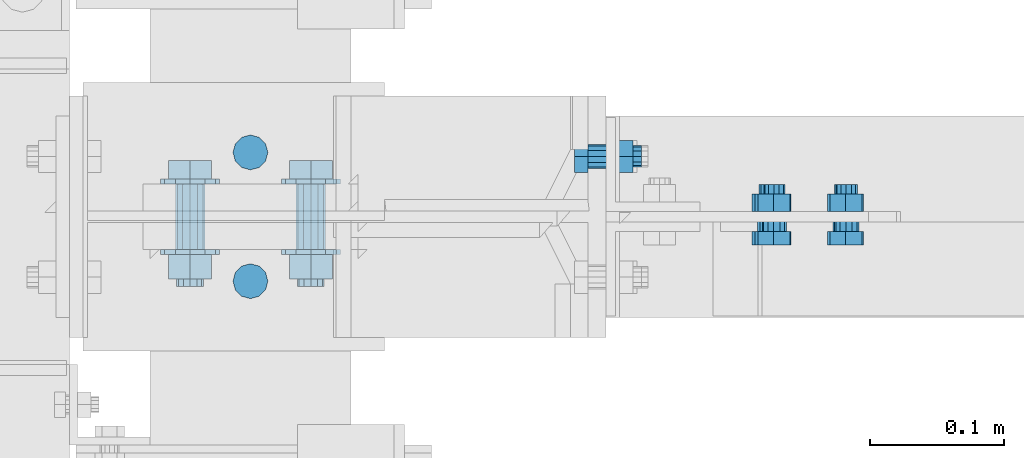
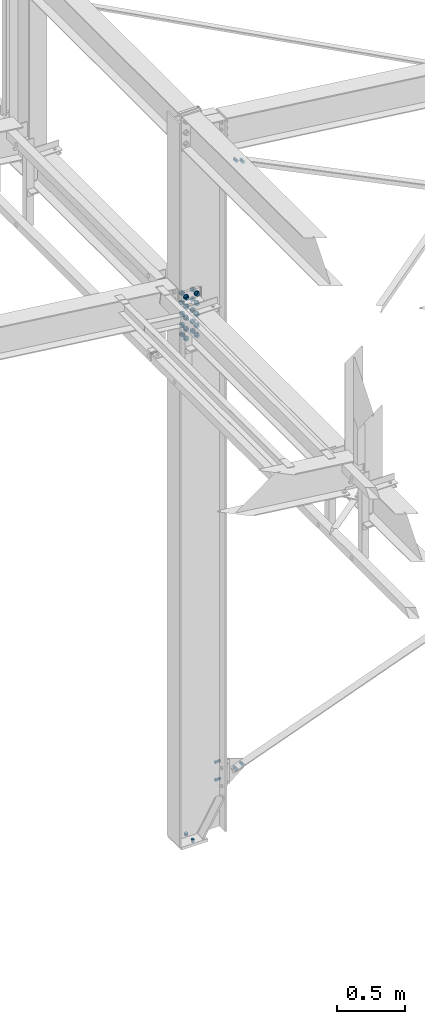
# One storey, part 117 of 3134: 5 mechanical fasteners, 5 elements without a shape of their own.
"""IFC2X3 building model written with IfcOpenShell, lengths in millimetres."""

from ifc_helpers import new_model, si_unit, frame, origin_with_axes, place, context, subcontext, project, spatial, faceted_brep, source, transform, mapped, material, type_object, element, aggregate, save


model = new_model("IFC2X3")

# Units and contexts
model_context = context("Model", 3, precision=1e-05, world=origin_with_axes())
body_context = subcontext(model_context, "Body", "Model", "MODEL_VIEW")
ifc_project = project(units=[si_unit("LENGTHUNIT", "METRE", prefix="MILLI"), si_unit("AREAUNIT", "SQUARE_METRE"), si_unit("VOLUMEUNIT", "CUBIC_METRE"), si_unit("MASSUNIT", "GRAM", prefix="KILO"), si_unit("TIMEUNIT", "SECOND"), si_unit("PLANEANGLEUNIT", "RADIAN"), si_unit("SOLIDANGLEUNIT", "STERADIAN"), si_unit("THERMODYNAMICTEMPERATUREUNIT", "DEGREE_CELSIUS"), si_unit("LUMINOUSINTENSITYUNIT", "LUMEN")], contexts=[model_context])

# Site, building, storey
site_placement = place(None, origin_with_axes())
site = spatial("IfcSite", under=ifc_project, at=site_placement, CompositionType="ELEMENT")
building_placement = place(site_placement, origin_with_axes())
building = spatial("IfcBuilding", under=site, at=building_placement, Name="Undefined", CompositionType="ELEMENT")
storey_placement = place(building_placement, origin_with_axes())
storey = spatial("IfcBuildingStorey", under=building, at=storey_placement, Name="Undefined", CompositionType="ELEMENT", Elevation=0.0)

# Assembly, mechanical fastener
assembly_1_placement = place(storey_placement, origin_with_axes())
assembly_1 = element("IfcElementAssembly", 1, at=assembly_1_placement, inside=storey, AssemblyPlace="NOTDEFINED", PredefinedType="RIGID_FRAME")
ifc_material_1 = material(Name="8.8")
mechanical_fastener_type = type_object("IfcMechanicalFastenerType", Name="Bolt assembly")
shared_shape_1 = source(origin_with_axes(), body_context, "Body", "Brep", [
    faceted_brep([(13.856406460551, -21.0000017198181, 0.0), (6.92820323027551, -21.0000017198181, 12.0), (-6.92820323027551, -21.0000017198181, 12.0), (-13.856406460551, -21.0000017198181, 1.69692038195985e-15), (-6.92820323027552, -21.0000017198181, -12.0), (6.9282032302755, -21.0000017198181, -12.0), (6.9282032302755, -11.0000017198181, -12.0), (-6.92820323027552, -11.0000017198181, -12.0), (-13.856406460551, -11.0000017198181, 1.69692038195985e-15), (-6.92820323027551, -11.0000017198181, 12.0), (6.92820323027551, -11.0000017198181, 12.0), (13.856406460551, -11.0000017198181, 0.0), (8.0, -11.0000017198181, 0.0), (6.92820323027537, -11.0000017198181, 4.00000000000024), (3.99999999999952, -11.0000017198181, 6.92820323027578), (-8.29068785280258e-13, -11.0000017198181, 8.0), (-4.00000000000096, -11.0000017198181, 6.92820323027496), (-6.9282032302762, -11.0000017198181, 3.99999999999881), (-8.0, -11.0000017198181, -1.65813757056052e-12), (-6.92820323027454, -11.0000017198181, -4.00000000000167), (-3.99999999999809, -11.0000017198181, -6.92820323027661), (2.47832457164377e-12, -11.0000017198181, -8.0), (4.00000000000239, -11.0000017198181, -6.92820323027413), (6.92820323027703, -11.0000017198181, -3.99999999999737), (6.92820323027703, 23.9999999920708, -3.99999999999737), (4.00000000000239, 23.9999999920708, -6.92820323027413), (2.47832457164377e-12, 23.9999999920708, -8.0), (-3.99999999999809, 23.9999999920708, -6.92820323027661), (-6.92820323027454, 23.9999999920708, -4.00000000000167), (-8.0, 23.9999999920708, -1.65813757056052e-12), (-6.9282032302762, 23.9999999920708, 3.99999999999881), (-4.00000000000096, 23.9999999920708, 6.92820323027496), (-8.29068785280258e-13, 23.9999999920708, 8.0), (3.99999999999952, 23.9999999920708, 6.92820323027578), (6.92820323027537, 23.9999999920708, 4.00000000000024), (8.0, 23.9999999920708, 0.0), (13.856406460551, 3.99999999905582, 0.0), (6.92820323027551, 3.99999999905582, 12.0), (-6.92820323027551, 3.99999999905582, 12.0), (-13.856406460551, 3.99999999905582, 1.69692038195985e-15), (-6.92820323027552, 3.99999999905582, -12.0), (6.9282032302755, 3.99999999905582, -12.0), (6.9282032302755, 16.9999999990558, -12.0), (-6.92820323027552, 16.9999999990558, -12.0), (-13.856406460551, 16.9999999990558, 1.69692038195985e-15), (-6.92820323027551, 16.9999999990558, 12.0), (6.92820323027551, 16.9999999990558, 12.0), (13.856406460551, 16.9999999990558, 0.0)], [[[0, 1, 2, 3, 4, 5]], [[6, 7, 8, 9, 10, 11]], [[0, 11, 10, 1]], [[1, 10, 9, 2]], [[2, 9, 8, 3]], [[3, 8, 7, 4]], [[4, 7, 6, 5]], [[5, 6, 11, 0]], [[12, 13, 14, 15, 16, 17, 18, 19, 20, 21, 22, 23]], [[24, 25, 26, 27, 28, 29, 30, 31, 32, 33, 34, 35]], [[12, 35, 34, 13]], [[13, 34, 33, 14]], [[14, 33, 32, 15]], [[15, 32, 31, 16]], [[16, 31, 30, 17]], [[17, 30, 29, 18]], [[18, 29, 28, 19]], [[19, 28, 27, 20]], [[20, 27, 26, 21]], [[21, 26, 25, 22]], [[22, 25, 24, 23]], [[23, 24, 35, 12]], [[36, 37, 38, 39, 40, 41]], [[42, 43, 44, 45, 46, 47]], [[36, 47, 46, 37]], [[37, 46, 45, 38]], [[38, 45, 44, 39]], [[39, 44, 43, 40]], [[40, 43, 42, 41]], [[41, 42, 47, 36]]]),
    faceted_brep([(9.0, -4.10000000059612, 0.0), (7.79422863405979, -4.10000000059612, 4.50000000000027), (4.49999999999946, -4.10000000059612, 7.79422863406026), (-9.3270238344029e-13, -4.10000000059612, 9.0), (-4.50000000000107, -4.10000000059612, 7.79422863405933), (-7.79422863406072, -4.10000000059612, 4.49999999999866), (-9.0, -4.10000000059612, -1.86540476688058e-12), (-7.79422863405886, -4.10000000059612, -4.50000000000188), (-4.49999999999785, -4.10000000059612, -7.79422863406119), (2.78811514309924e-12, -4.10000000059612, -9.0), (4.50000000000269, -4.10000000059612, -7.7942286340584), (7.79422863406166, -4.10000000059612, -4.49999999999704), (7.79422863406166, 4.00000375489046, -4.49999999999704), (4.50000000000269, 4.00000375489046, -7.7942286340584), (2.78811514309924e-12, 4.00000375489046, -9.0), (-4.49999999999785, 4.00000375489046, -7.79422863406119), (-7.79422863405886, 4.00000375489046, -4.50000000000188), (-9.0, 4.00000375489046, -1.86540476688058e-12), (-7.79422863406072, 4.00000375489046, 4.49999999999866), (-4.50000000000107, 4.00000375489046, 7.79422863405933), (-9.3270238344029e-13, 4.00000375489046, 9.0), (4.49999999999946, 4.00000375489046, 7.79422863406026), (7.79422863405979, 4.00000375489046, 4.50000000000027), (9.0, 4.00000375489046, 0.0), (9.0, -10.9000017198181, 0.0), (7.79422863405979, -10.9000017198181, 4.50000000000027), (4.49999999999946, -10.9000017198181, 7.79422863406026), (-9.3270238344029e-13, -10.9000017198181, 9.0), (-4.50000000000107, -10.9000017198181, 7.79422863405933), (-7.79422863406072, -10.9000017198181, 4.49999999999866), (-9.0, -10.9000017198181, -1.86540476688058e-12), (-7.79422863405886, -10.9000017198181, -4.50000000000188), (-4.49999999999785, -10.9000017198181, -7.79422863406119), (2.78811514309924e-12, -10.9000017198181, -9.0), (4.50000000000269, -10.9000017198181, -7.7942286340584), (7.79422863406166, -10.9000017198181, -4.49999999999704), (7.79422863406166, -3.9, -4.49999999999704), (4.50000000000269, -3.9, -7.7942286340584), (2.78811514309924e-12, -3.9, -9.0), (-4.49999999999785, -3.9, -7.79422863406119), (-7.79422863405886, -3.9, -4.50000000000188), (-9.0, -3.9, -1.86540476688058e-12), (-7.79422863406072, -3.9, 4.49999999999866), (-4.50000000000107, -3.9, 7.79422863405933), (-9.3270238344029e-13, -3.9, 9.0), (4.49999999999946, -3.9, 7.79422863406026), (7.79422863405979, -3.9, 4.50000000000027), (9.0, -3.9, 0.0)], [[[0, 1, 2, 3, 4, 5, 6, 7, 8, 9, 10, 11]], [[12, 13, 14, 15, 16, 17, 18, 19, 20, 21, 22, 23]], [[0, 23, 22, 1]], [[1, 22, 21, 2]], [[2, 21, 20, 3]], [[3, 20, 19, 4]], [[4, 19, 18, 5]], [[5, 18, 17, 6]], [[6, 17, 16, 7]], [[7, 16, 15, 8]], [[8, 15, 14, 9]], [[9, 14, 13, 10]], [[10, 13, 12, 11]], [[11, 12, 23, 0]], [[24, 25, 26, 27, 28, 29, 30, 31, 32, 33, 34, 35]], [[36, 37, 38, 39, 40, 41, 42, 43, 44, 45, 46, 47]], [[24, 47, 46, 25]], [[25, 46, 45, 26]], [[26, 45, 44, 27]], [[27, 44, 43, 28]], [[28, 43, 42, 29]], [[29, 42, 41, 30]], [[30, 41, 40, 31]], [[31, 40, 39, 32]], [[32, 39, 38, 33]], [[33, 38, 37, 34]], [[34, 37, 36, 35]], [[35, 36, 47, 24]]]),
])
mechanical_fastener_1_placement = place(assembly_1_placement, frame((44586.8867952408, 7650.0, -104.807745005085), z_axis=(-0.347632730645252, 0.0, 0.937630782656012), x_axis=(0.937630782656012, 0.0, 0.347632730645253)))
mechanical_fastener_1 = element("IfcMechanicalFastener", 2, at=mechanical_fastener_1_placement, type_object=mechanical_fastener_type, material=ifc_material_1, Name="Bolt assembly", NominalDiameter=16.0, NominalLength=35.0, context=body_context, shape_type="MappedRepresentation", body=[
    mapped(shared_shape_1, transform((0.0, 0.0, 0.0))),
    mapped(shared_shape_1, transform((59.9999999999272, 0.0, 5.40239852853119e-10))),
])
aggregate(assembly_1, [mechanical_fastener_1])

assembly_2_placement = place(storey_placement, origin_with_axes())
assembly_2 = element("IfcElementAssembly", 3, at=assembly_2_placement, inside=storey, AssemblyPlace="NOTDEFINED", PredefinedType="RIGID_FRAME")
mechanical_fastener_2_placement = place(assembly_2_placement, frame((44590.6543199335, 7650.0, 5327.63267581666), z_axis=(0.440953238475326, 0.0, 0.897530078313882), x_axis=(0.897530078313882, 0.0, -0.440953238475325)))
mechanical_fastener_2 = element("IfcMechanicalFastener", 4, at=mechanical_fastener_2_placement, type_object=mechanical_fastener_type, material=ifc_material_1, Name="Bolt assembly", NominalDiameter=16.0, NominalLength=35.0, context=body_context, shape_type="MappedRepresentation", body=[
    mapped(shared_shape_1, transform((0.0, 0.0, 0.0))),
    mapped(shared_shape_1, transform((59.9999999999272, 0.0, 5.40239852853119e-10))),
])
aggregate(assembly_2, [mechanical_fastener_2])

assembly_3_placement = place(storey_placement, origin_with_axes())
assembly_3 = element("IfcElementAssembly", 5, at=assembly_3_placement, inside=storey, AssemblyPlace="NOTDEFINED", PredefinedType="RIGID_FRAME")
shared_shape_2 = source(origin_with_axes(), body_context, "Body", "Brep", [
    faceted_brep([(13.856406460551, -23.4899999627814, 0.0), (6.92820323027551, -23.4899999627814, 12.0), (-6.92820323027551, -23.4899999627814, 12.0), (-13.856406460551, -23.4899999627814, 1.69692038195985e-15), (-6.92820323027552, -23.4899999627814, -12.0), (6.9282032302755, -23.4899999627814, -12.0), (6.9282032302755, -13.4899999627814, -12.0), (-6.92820323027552, -13.4899999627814, -12.0), (-13.856406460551, -13.4899999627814, 1.69692038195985e-15), (-6.92820323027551, -13.4899999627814, 12.0), (6.92820323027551, -13.4899999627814, 12.0), (13.856406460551, -13.4899999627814, 0.0), (8.0, -13.4899999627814, 0.0), (6.92820323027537, -13.4899999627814, 4.00000000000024), (3.99999999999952, -13.4899999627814, 6.92820323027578), (-8.29068785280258e-13, -13.4899999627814, 8.0), (-4.00000000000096, -13.4899999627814, 6.92820323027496), (-6.9282032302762, -13.4899999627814, 3.99999999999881), (-8.0, -13.4899999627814, -1.65813757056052e-12), (-6.92820323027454, -13.4899999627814, -4.00000000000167), (-3.99999999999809, -13.4899999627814, -6.92820323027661), (2.47832457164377e-12, -13.4899999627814, -8.0), (4.00000000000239, -13.4899999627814, -6.92820323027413), (6.92820323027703, -13.4899999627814, -3.99999999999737), (6.92820323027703, 26.5100000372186, -3.99999999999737), (4.00000000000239, 26.5100000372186, -6.92820323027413), (2.47832457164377e-12, 26.5100000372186, -8.0), (-3.99999999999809, 26.5100000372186, -6.92820323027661), (-6.92820323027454, 26.5100000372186, -4.00000000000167), (-8.0, 26.5100000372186, -1.65813757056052e-12), (-6.9282032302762, 26.5100000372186, 3.99999999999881), (-4.00000000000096, 26.5100000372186, 6.92820323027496), (-8.29068785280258e-13, 26.5100000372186, 8.0), (3.99999999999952, 26.5100000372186, 6.92820323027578), (6.92820323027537, 26.5100000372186, 4.00000000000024), (8.0, 26.5100000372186, 0.0), (13.856406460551, 7.00624984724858, 0.0), (6.92820323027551, 7.00624984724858, 12.0), (-6.92820323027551, 7.00624984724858, 12.0), (-13.856406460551, 7.00624984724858, 1.69692038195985e-15), (-6.92820323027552, 7.00624984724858, -12.0), (6.9282032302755, 7.00624984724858, -12.0), (6.9282032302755, 20.0062498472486, -12.0), (-6.92820323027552, 20.0062498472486, -12.0), (-13.856406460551, 20.0062498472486, 1.69692038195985e-15), (-6.92820323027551, 20.0062498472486, 12.0), (6.92820323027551, 20.0062498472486, 12.0), (13.856406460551, 20.0062498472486, 0.0)], [[[0, 1, 2, 3, 4, 5]], [[6, 7, 8, 9, 10, 11]], [[0, 11, 10, 1]], [[1, 10, 9, 2]], [[2, 9, 8, 3]], [[3, 8, 7, 4]], [[4, 7, 6, 5]], [[5, 6, 11, 0]], [[12, 13, 14, 15, 16, 17, 18, 19, 20, 21, 22, 23]], [[24, 25, 26, 27, 28, 29, 30, 31, 32, 33, 34, 35]], [[12, 35, 34, 13]], [[13, 34, 33, 14]], [[14, 33, 32, 15]], [[15, 32, 31, 16]], [[16, 31, 30, 17]], [[17, 30, 29, 18]], [[18, 29, 28, 19]], [[19, 28, 27, 20]], [[20, 27, 26, 21]], [[21, 26, 25, 22]], [[22, 25, 24, 23]], [[23, 24, 35, 12]], [[36, 37, 38, 39, 40, 41]], [[42, 43, 44, 45, 46, 47]], [[36, 47, 46, 37]], [[37, 46, 45, 38]], [[38, 45, 44, 39]], [[39, 44, 43, 40]], [[40, 43, 42, 41]], [[41, 42, 47, 36]]]),
    faceted_brep([(9.0, -13.3899999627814, 0.0), (7.79422863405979, -13.3899999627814, 4.50000000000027), (4.49999999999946, -13.3899999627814, 7.79422863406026), (-9.3270238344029e-13, -13.3899999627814, 9.0), (-4.50000000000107, -13.3899999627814, 7.79422863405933), (-7.79422863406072, -13.3899999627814, 4.49999999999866), (-9.0, -13.3899999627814, -1.86540476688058e-12), (-7.79422863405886, -13.3899999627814, -4.50000000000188), (-4.49999999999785, -13.3899999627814, -7.79422863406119), (2.78811514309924e-12, -13.3899999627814, -9.0), (4.50000000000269, -13.3899999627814, -7.7942286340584), (7.79422863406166, -13.3899999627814, -4.49999999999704), (7.79422863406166, 0.11000003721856, -4.49999999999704), (4.50000000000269, 0.11000003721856, -7.7942286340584), (2.78811514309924e-12, 0.11000003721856, -9.0), (-4.49999999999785, 0.11000003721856, -7.79422863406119), (-7.79422863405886, 0.11000003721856, -4.50000000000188), (-9.0, 0.11000003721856, -1.86540476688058e-12), (-7.79422863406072, 0.11000003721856, 4.49999999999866), (-4.50000000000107, 0.11000003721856, 7.79422863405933), (-9.3270238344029e-13, 0.11000003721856, 9.0), (4.49999999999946, 0.11000003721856, 7.79422863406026), (7.79422863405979, 0.11000003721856, 4.50000000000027), (9.0, 0.11000003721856, 0.0), (9.0, -0.0937501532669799, 0.0), (7.79422863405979, -0.0937501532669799, 4.50000000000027), (4.49999999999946, -0.0937501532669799, 7.79422863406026), (-9.3270238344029e-13, -0.0937501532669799, 9.0), (-4.50000000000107, -0.0937501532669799, 7.79422863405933), (-7.79422863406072, -0.0937501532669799, 4.49999999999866), (-9.0, -0.0937501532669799, -1.86540476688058e-12), (-7.79422863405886, -0.0937501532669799, -4.50000000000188), (-4.49999999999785, -0.0937501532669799, -7.79422863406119), (2.78811514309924e-12, -0.0937501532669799, -9.0), (4.50000000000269, -0.0937501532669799, -7.7942286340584), (7.79422863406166, -0.0937501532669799, -4.49999999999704), (7.79422863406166, 7.00624984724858, -4.49999999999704), (4.50000000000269, 7.00624984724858, -7.7942286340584), (2.78811514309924e-12, 7.00624984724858, -9.0), (-4.49999999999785, 7.00624984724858, -7.79422863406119), (-7.79422863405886, 7.00624984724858, -4.50000000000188), (-9.0, 7.00624984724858, -1.86540476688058e-12), (-7.79422863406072, 7.00624984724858, 4.49999999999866), (-4.50000000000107, 7.00624984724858, 7.79422863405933), (-9.3270238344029e-13, 7.00624984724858, 9.0), (4.49999999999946, 7.00624984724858, 7.79422863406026), (7.79422863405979, 7.00624984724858, 4.50000000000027), (9.0, 7.00624984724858, 0.0)], [[[0, 1, 2, 3, 4, 5, 6, 7, 8, 9, 10, 11]], [[12, 13, 14, 15, 16, 17, 18, 19, 20, 21, 22, 23]], [[0, 23, 22, 1]], [[1, 22, 21, 2]], [[2, 21, 20, 3]], [[3, 20, 19, 4]], [[4, 19, 18, 5]], [[5, 18, 17, 6]], [[6, 17, 16, 7]], [[7, 16, 15, 8]], [[8, 15, 14, 9]], [[9, 14, 13, 10]], [[10, 13, 12, 11]], [[11, 12, 23, 0]], [[24, 25, 26, 27, 28, 29, 30, 31, 32, 33, 34, 35]], [[36, 37, 38, 39, 40, 41, 42, 43, 44, 45, 46, 47]], [[24, 47, 46, 25]], [[25, 46, 45, 26]], [[26, 45, 44, 27]], [[27, 44, 43, 28]], [[28, 43, 42, 29]], [[29, 42, 41, 30]], [[30, 41, 40, 31]], [[31, 40, 39, 32]], [[32, 39, 38, 33]], [[33, 38, 37, 34]], [[34, 37, 36, 35]], [[35, 36, 47, 24]]]),
])
mechanical_fastener_3_placement = place(assembly_3_placement, frame((44464.9899999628, 7650.0, -30.0040931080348), z_axis=(0.0, -1.0, 0.0), x_axis=(0.0, 0.0, -1.0)))
mechanical_fastener_3 = element("IfcMechanicalFastener", 6, at=mechanical_fastener_3_placement, type_object=mechanical_fastener_type, material=ifc_material_1, Name="Bolt assembly", NominalDiameter=16.0, NominalLength=40.0, context=body_context, shape_type="MappedRepresentation", body=[
    mapped(shared_shape_2, transform((0.0, 0.0, -45.0))),
    mapped(shared_shape_2, transform((160.0, 0.0, -45.0))),
])
aggregate(assembly_3, [mechanical_fastener_3])

assembly_4_placement = place(storey_placement, origin_with_axes())
assembly_4 = element("IfcElementAssembly", 7, at=assembly_4_placement, inside=storey, Name="300", AssemblyPlace="NOTDEFINED", PredefinedType="RIGID_FRAME")
ifc_material_2 = material(Name="HR10.9")
shared_shape_3 = source(origin_with_axes(), body_context, "Body", "Brep", [
    faceted_brep([(18.475208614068, -17.599999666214, 0.0), (9.23760430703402, -17.599999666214, 16.0), (-9.23760430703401, -17.599999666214, 16.0), (-18.475208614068, -17.599999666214, 2.2625605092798e-15), (-9.23760430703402, -17.599999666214, -16.0), (9.237604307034, -17.599999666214, -16.0), (9.237604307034, -3.70000004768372, -16.0), (-9.23760430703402, -3.70000004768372, -16.0), (-18.475208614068, -3.70000004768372, 2.2625605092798e-15), (-9.23760430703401, -3.70000004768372, 16.0), (9.23760430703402, -3.70000004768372, 16.0), (18.475208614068, -3.70000004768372, 0.0), (10.0, -3.70000004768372, 0.0), (8.66025403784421, -3.70000004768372, 5.0000000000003), (4.9999999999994, -3.70000004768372, 8.66025403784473), (-1.03633598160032e-12, -3.70000004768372, 10.0), (-5.00000000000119, -3.70000004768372, 8.6602540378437), (-8.66025403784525, -3.70000004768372, 4.99999999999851), (-10.0, -3.70000004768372, -2.07267196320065e-12), (-8.66025403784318, -3.70000004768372, -5.00000000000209), (-4.99999999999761, -3.70000004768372, -8.66025403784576), (3.09790571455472e-12, -3.70000004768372, -10.0), (5.00000000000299, -3.70000004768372, -8.66025403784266), (8.66025403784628, -3.70000004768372, -4.99999999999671), (8.66025403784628, 76.2999999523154, -4.99999999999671), (5.00000000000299, 76.2999999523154, -8.66025403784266), (3.09790571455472e-12, 76.2999999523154, -10.0), (-4.99999999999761, 76.2999999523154, -8.66025403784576), (-8.66025403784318, 76.2999999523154, -5.00000000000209), (-10.0, 76.2999999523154, -2.07267196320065e-12), (-8.66025403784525, 76.2999999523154, 4.99999999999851), (-5.00000000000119, 76.2999999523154, 8.6602540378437), (-1.03633598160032e-12, 76.2999999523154, 10.0), (4.9999999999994, 76.2999999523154, 8.66025403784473), (8.66025403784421, 76.2999999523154, 5.0000000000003), (10.0, 76.2999999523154, 0.0), (22.0, -3.70000004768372, 0.0), (19.0525588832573, -3.70000004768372, 11.0000000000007), (10.9999999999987, -3.70000004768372, 19.0525588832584), (-2.27993915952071e-12, -3.70000004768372, 22.0), (-11.0000000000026, -3.70000004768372, 19.0525588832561), (-19.0525588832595, -3.70000004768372, 10.9999999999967), (-22.0, -3.70000004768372, -4.55987831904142e-12), (-19.052558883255, -3.70000004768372, -11.0000000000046), (-10.9999999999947, -3.70000004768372, -19.0525588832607), (6.81539257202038e-12, -3.70000004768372, -22.0), (11.0000000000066, -3.70000004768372, -19.0525588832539), (19.0525588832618, -3.70000004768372, -10.9999999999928), (19.0525588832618, 0.0, -10.9999999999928), (11.0000000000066, 0.0, -19.0525588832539), (6.81539257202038e-12, 0.0, -22.0), (-10.9999999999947, 0.0, -19.0525588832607), (-19.052558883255, 0.0, -11.0000000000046), (-22.0, 0.0, -4.55987831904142e-12), (-19.0525588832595, 0.0, 10.9999999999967), (-11.0000000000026, 0.0, 19.0525588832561), (-2.27993915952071e-12, 0.0, 22.0), (10.9999999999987, 0.0, 19.0525588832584), (19.0525588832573, 0.0, 11.0000000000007), (22.0, 0.0, 0.0), (22.0, 48.5999999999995, 0.0), (19.0525588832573, 48.5999999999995, 11.0000000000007), (10.9999999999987, 48.5999999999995, 19.0525588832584), (-2.27993915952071e-12, 48.5999999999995, 22.0), (-11.0000000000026, 48.5999999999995, 19.0525588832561), (-19.0525588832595, 48.5999999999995, 10.9999999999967), (-22.0, 48.5999999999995, -4.55987831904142e-12), (-19.052558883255, 48.5999999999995, -11.0000000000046), (-10.9999999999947, 48.5999999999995, -19.0525588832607), (6.81539257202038e-12, 48.5999999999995, -22.0), (11.0000000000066, 48.5999999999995, -19.0525588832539), (19.0525588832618, 48.5999999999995, -10.9999999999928), (19.0525588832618, 52.3000000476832, -10.9999999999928), (11.0000000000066, 52.3000000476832, -19.0525588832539), (6.81539257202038e-12, 52.3000000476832, -22.0), (-10.9999999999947, 52.3000000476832, -19.0525588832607), (-19.052558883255, 52.3000000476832, -11.0000000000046), (-22.0, 52.3000000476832, -4.55987831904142e-12), (-19.0525588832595, 52.3000000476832, 10.9999999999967), (-11.0000000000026, 52.3000000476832, 19.0525588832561), (-2.27993915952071e-12, 52.3000000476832, 22.0), (10.9999999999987, 52.3000000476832, 19.0525588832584), (19.0525588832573, 52.3000000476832, 11.0000000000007), (22.0, 52.3000000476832, 0.0), (18.475208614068, 52.3000000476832, 0.0), (9.23760430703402, 52.3000000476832, 16.0), (-9.23760430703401, 52.3000000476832, 16.0), (-18.475208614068, 52.3000000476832, 2.2625605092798e-15), (-9.23760430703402, 52.3000000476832, -16.0), (9.237604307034, 52.3000000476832, -16.0), (9.237604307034, 70.8499992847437, -16.0), (-9.23760430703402, 70.8499992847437, -16.0), (-18.475208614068, 70.8499992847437, 2.2625605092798e-15), (-9.23760430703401, 70.8499992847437, 16.0), (9.23760430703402, 70.8499992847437, 16.0), (18.475208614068, 70.8499992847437, 0.0)], [[[0, 1, 2, 3, 4, 5]], [[6, 7, 8, 9, 10, 11]], [[0, 11, 10, 1]], [[1, 10, 9, 2]], [[2, 9, 8, 3]], [[3, 8, 7, 4]], [[4, 7, 6, 5]], [[5, 6, 11, 0]], [[12, 13, 14, 15, 16, 17, 18, 19, 20, 21, 22, 23]], [[24, 25, 26, 27, 28, 29, 30, 31, 32, 33, 34, 35]], [[12, 35, 34, 13]], [[13, 34, 33, 14]], [[14, 33, 32, 15]], [[15, 32, 31, 16]], [[16, 31, 30, 17]], [[17, 30, 29, 18]], [[18, 29, 28, 19]], [[19, 28, 27, 20]], [[20, 27, 26, 21]], [[21, 26, 25, 22]], [[22, 25, 24, 23]], [[23, 24, 35, 12]], [[36, 37, 38, 39, 40, 41, 42, 43, 44, 45, 46, 47]], [[48, 49, 50, 51, 52, 53, 54, 55, 56, 57, 58, 59]], [[36, 59, 58, 37]], [[37, 58, 57, 38]], [[38, 57, 56, 39]], [[39, 56, 55, 40]], [[40, 55, 54, 41]], [[41, 54, 53, 42]], [[42, 53, 52, 43]], [[43, 52, 51, 44]], [[44, 51, 50, 45]], [[45, 50, 49, 46]], [[46, 49, 48, 47]], [[47, 48, 59, 36]], [[60, 61, 62, 63, 64, 65, 66, 67, 68, 69, 70, 71]], [[72, 73, 74, 75, 76, 77, 78, 79, 80, 81, 82, 83]], [[60, 83, 82, 61]], [[61, 82, 81, 62]], [[62, 81, 80, 63]], [[63, 80, 79, 64]], [[64, 79, 78, 65]], [[65, 78, 77, 66]], [[66, 77, 76, 67]], [[67, 76, 75, 68]], [[68, 75, 74, 69]], [[69, 74, 73, 70]], [[70, 73, 72, 71]], [[71, 72, 83, 60]], [[84, 85, 86, 87, 88, 89]], [[90, 91, 92, 93, 94, 95]], [[84, 95, 94, 85]], [[85, 94, 93, 86]], [[86, 93, 92, 87]], [[87, 92, 91, 88]], [[88, 91, 90, 89]], [[89, 90, 95, 84]]]),
    faceted_brep([(11.0, 20.0, 0.0), (9.52627944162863, 20.0, 5.50000000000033), (5.49999999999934, 20.0, 9.5262794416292), (-1.13996957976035e-12, 20.0, 11.0), (-5.50000000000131, 20.0, 9.52627944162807), (-9.52627944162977, 20.0, 5.49999999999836), (-11.0, 20.0, -2.27993915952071e-12), (-9.5262794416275, 20.0, -5.5000000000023), (-5.49999999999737, 20.0, -9.52627944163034), (3.40769628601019e-12, 20.0, -11.0), (5.50000000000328, 20.0, -9.52627944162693), (9.52627944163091, 20.0, -5.49999999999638), (9.52627944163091, 28.6000001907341, -5.49999999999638), (5.50000000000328, 28.6000001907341, -9.52627944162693), (3.40769628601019e-12, 28.6000001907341, -11.0), (-5.49999999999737, 28.6000001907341, -9.52627944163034), (-9.5262794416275, 28.6000001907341, -5.5000000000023), (-11.0, 28.6000001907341, -2.27993915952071e-12), (-9.52627944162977, 28.6000001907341, 5.49999999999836), (-5.50000000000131, 28.6000001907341, 9.52627944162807), (-1.13996957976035e-12, 28.6000001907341, 11.0), (5.49999999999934, 28.6000001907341, 9.5262794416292), (9.52627944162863, 28.6000001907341, 5.50000000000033), (11.0, 28.6000001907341, 0.0), (11.0, 0.0999999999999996, 0.0), (9.52627944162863, 0.0999999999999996, 5.50000000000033), (5.49999999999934, 0.0999999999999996, 9.5262794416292), (-1.13996957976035e-12, 0.0999999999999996, 11.0), (-5.50000000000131, 0.0999999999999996, 9.52627944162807), (-9.52627944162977, 0.0999999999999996, 5.49999999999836), (-11.0, 0.0999999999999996, -2.27993915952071e-12), (-9.5262794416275, 0.0999999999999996, -5.5000000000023), (-5.49999999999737, 0.0999999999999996, -9.52627944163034), (3.40769628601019e-12, 0.0999999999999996, -11.0), (5.50000000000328, 0.0999999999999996, -9.52627944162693), (9.52627944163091, 0.0999999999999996, -5.49999999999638), (9.52627944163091, 20.1, -5.49999999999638), (5.50000000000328, 20.1, -9.52627944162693), (3.40769628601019e-12, 20.1, -11.0), (-5.49999999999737, 20.1, -9.52627944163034), (-9.5262794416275, 20.1, -5.5000000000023), (-11.0, 20.1, -2.27993915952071e-12), (-9.52627944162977, 20.1, 5.49999999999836), (-5.50000000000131, 20.1, 9.52627944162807), (-1.13996957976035e-12, 20.1, 11.0), (5.49999999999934, 20.1, 9.5262794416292), (9.52627944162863, 20.1, 5.50000000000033), (11.0, 20.1, 0.0), (11.0, 28.4999999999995, 0.0), (9.52627944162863, 28.4999999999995, 5.50000000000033), (5.49999999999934, 28.4999999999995, 9.5262794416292), (-1.13996957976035e-12, 28.4999999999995, 11.0), (-5.50000000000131, 28.4999999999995, 9.52627944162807), (-9.52627944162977, 28.4999999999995, 5.49999999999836), (-11.0, 28.4999999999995, -2.27993915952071e-12), (-9.5262794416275, 28.4999999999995, -5.5000000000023), (-5.49999999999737, 28.4999999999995, -9.52627944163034), (3.40769628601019e-12, 28.4999999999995, -11.0), (5.50000000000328, 28.4999999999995, -9.52627944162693), (9.52627944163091, 28.4999999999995, -5.49999999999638), (9.52627944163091, 48.5999999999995, -5.49999999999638), (5.50000000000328, 48.5999999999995, -9.52627944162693), (3.40769628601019e-12, 48.5999999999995, -11.0), (-5.49999999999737, 48.5999999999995, -9.52627944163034), (-9.5262794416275, 48.5999999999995, -5.5000000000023), (-11.0, 48.5999999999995, -2.27993915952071e-12), (-9.52627944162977, 48.5999999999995, 5.49999999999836), (-5.50000000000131, 48.5999999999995, 9.52627944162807), (-1.13996957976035e-12, 48.5999999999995, 11.0), (5.49999999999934, 48.5999999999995, 9.5262794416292), (9.52627944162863, 48.5999999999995, 5.50000000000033), (11.0, 48.5999999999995, 0.0)], [[[0, 1, 2, 3, 4, 5, 6, 7, 8, 9, 10, 11]], [[12, 13, 14, 15, 16, 17, 18, 19, 20, 21, 22, 23]], [[0, 23, 22, 1]], [[1, 22, 21, 2]], [[2, 21, 20, 3]], [[3, 20, 19, 4]], [[4, 19, 18, 5]], [[5, 18, 17, 6]], [[6, 17, 16, 7]], [[7, 16, 15, 8]], [[8, 15, 14, 9]], [[9, 14, 13, 10]], [[10, 13, 12, 11]], [[11, 12, 23, 0]], [[24, 25, 26, 27, 28, 29, 30, 31, 32, 33, 34, 35]], [[36, 37, 38, 39, 40, 41, 42, 43, 44, 45, 46, 47]], [[24, 47, 46, 25]], [[25, 46, 45, 26]], [[26, 45, 44, 27]], [[27, 44, 43, 28]], [[28, 43, 42, 29]], [[29, 42, 41, 30]], [[30, 41, 40, 31]], [[31, 40, 39, 32]], [[32, 39, 38, 33]], [[33, 38, 37, 34]], [[34, 37, 36, 35]], [[35, 36, 47, 24]], [[48, 49, 50, 51, 52, 53, 54, 55, 56, 57, 58, 59]], [[60, 61, 62, 63, 64, 65, 66, 67, 68, 69, 70, 71]], [[48, 71, 70, 49]], [[49, 70, 69, 50]], [[50, 69, 68, 51]], [[51, 68, 67, 52]], [[52, 67, 66, 53]], [[53, 66, 65, 54]], [[54, 65, 64, 55]], [[55, 64, 63, 56]], [[56, 63, 62, 57]], [[57, 62, 61, 58]], [[58, 61, 60, 59]], [[59, 60, 71, 48]]]),
])
mechanical_fastener_4_placement = place(assembly_4_placement, frame((44200.0, 7674.3, 4273.5), z_axis=(-1.0, 0.0, 0.0), x_axis=(0.0, 0.0, -1.0)))
mechanical_fastener_4 = element("IfcMechanicalFastener", 8, at=mechanical_fastener_4_placement, type_object=mechanical_fastener_type, material=ifc_material_2, Name="Bolt assembly", NominalDiameter=20.0, NominalLength=80.0, context=body_context, shape_type="MappedRepresentation", body=[
    mapped(shared_shape_3, transform((0.0, 0.0, -45.0))),
    mapped(shared_shape_3, transform((85.0, 0.0, -45.0))),
    mapped(shared_shape_3, transform((185.0, 0.0, -45.0))),
    mapped(shared_shape_3, transform((285.0, 0.0, -45.0))),
    mapped(shared_shape_3, transform((370.0, 0.0, -45.0))),
    mapped(shared_shape_3, transform((0.0, 0.0, 45.0))),
    mapped(shared_shape_3, transform((85.0, 0.0, 45.0))),
    mapped(shared_shape_3, transform((185.0, 0.0, 45.0))),
    mapped(shared_shape_3, transform((285.0, 0.0, 45.0))),
    mapped(shared_shape_3, transform((370.0, 0.0, 45.0))),
])
aggregate(assembly_4, [mechanical_fastener_4])

assembly_5_placement = place(storey_placement, origin_with_axes())
assembly_5 = element("IfcElementAssembly", 9, at=assembly_5_placement, inside=storey, Name="IPE400", AssemblyPlace="NOTDEFINED", PredefinedType="RIGID_FRAME")
shared_shape_4 = source(origin_with_axes(), body_context, "Body", "Brep", [
    faceted_brep([(13.0, -25.000000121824, 0.0), (11.2583302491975, -25.000000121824, 6.50000000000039), (6.49999999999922, -25.000000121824, 11.2583302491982), (-1.34723677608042e-12, -25.000000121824, 13.0), (-6.50000000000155, -25.000000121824, 11.2583302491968), (-11.2583302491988, -25.000000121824, 6.49999999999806), (-13.0, -25.000000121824, -2.69447355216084e-12), (-11.2583302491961, -25.000000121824, -6.50000000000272), (-6.4999999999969, -25.000000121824, -11.2583302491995), (4.02727742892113e-12, -25.000000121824, -13.0), (6.50000000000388, -25.000000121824, -11.2583302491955), (11.2583302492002, -25.000000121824, -6.49999999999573), (11.2583302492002, 0.100000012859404, -6.49999999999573), (6.50000000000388, 0.100000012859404, -11.2583302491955), (4.02727742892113e-12, 0.100000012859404, -13.0), (-6.4999999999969, 0.100000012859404, -11.2583302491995), (-11.2583302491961, 0.100000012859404, -6.50000000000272), (-13.0, 0.100000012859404, -2.69447355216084e-12), (-11.2583302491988, 0.100000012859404, 6.49999999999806), (-6.50000000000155, 0.100000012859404, 11.2583302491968), (-1.34723677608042e-12, 0.100000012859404, 13.0), (6.49999999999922, 0.100000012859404, 11.2583302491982), (11.2583302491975, 0.100000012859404, 6.50000000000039), (13.0, 0.100000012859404, 0.0)], [[[0, 1, 2, 3, 4, 5, 6, 7, 8, 9, 10, 11]], [[12, 13, 14, 15, 16, 17, 18, 19, 20, 21, 22, 23]], [[0, 23, 22, 1]], [[1, 22, 21, 2]], [[2, 21, 20, 3]], [[3, 20, 19, 4]], [[4, 19, 18, 5]], [[5, 18, 17, 6]], [[6, 17, 16, 7]], [[7, 16, 15, 8]], [[8, 15, 14, 9]], [[9, 14, 13, 10]], [[10, 13, 12, 11]], [[11, 12, 23, 0]]]),
])
mechanical_fastener_5_placement = place(assembly_5_placement, frame((44530.0, 7649.99999991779, -574.999999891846), z_axis=(0.0, 1.0, 0.0), x_axis=(-1.0, 0.0, 0.0)))
mechanical_fastener_5 = element("IfcMechanicalFastener", 10, at=mechanical_fastener_5_placement, type_object=mechanical_fastener_type, material=ifc_material_1, Name="Bolt assembly", NominalDiameter=24.0, NominalLength=25.0, context=body_context, shape_type="MappedRepresentation", body=[
    mapped(shared_shape_4, transform((330.0, 0.0, -48.0))),
    mapped(shared_shape_4, transform((330.0, 0.0, 48.0))),
])
aggregate(assembly_5, [mechanical_fastener_5])

save(model, "model.ifc")
